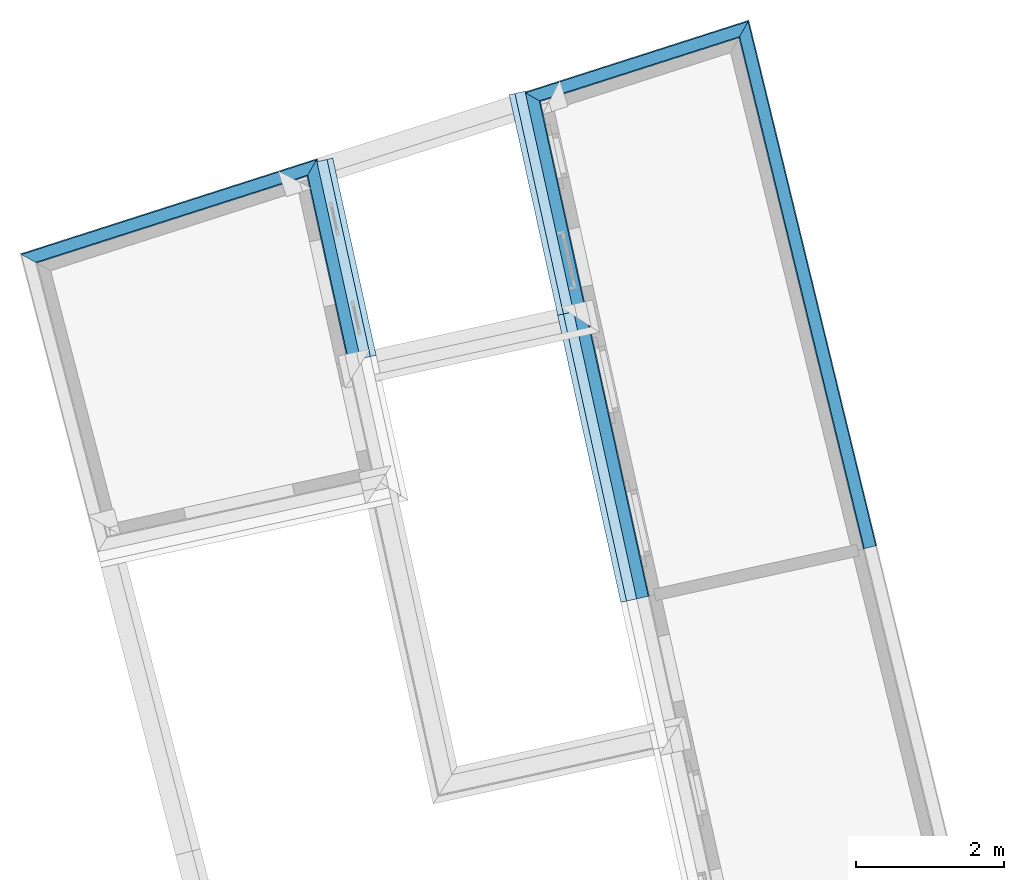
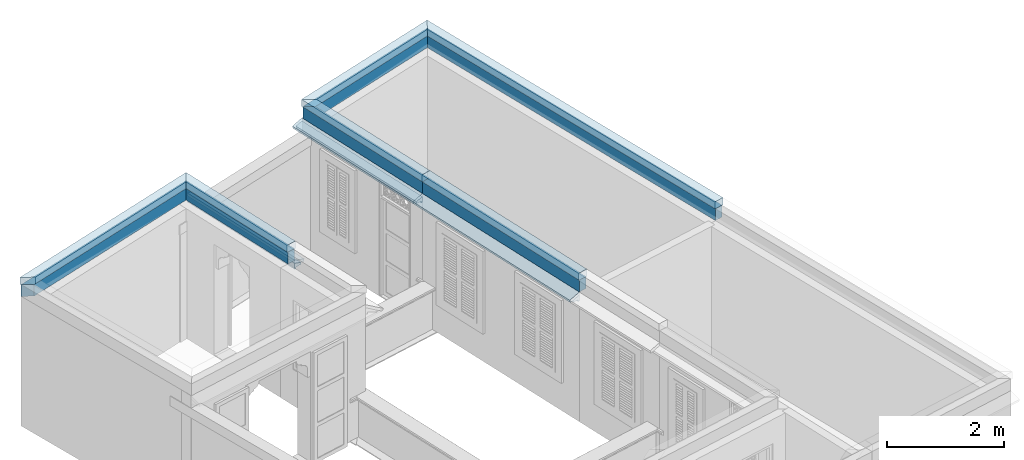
# One storey, part 16 of 17: 18 roofs.
"""IFC4 building model written with IfcOpenShell, lengths in metres."""

from ifc_helpers import new_model, si_unit, frame, origin_with_axes, place, context, subcontext, project, spatial, polyline, outline, extrude, clip, halfspace, material_profile, profile_set, profile_usage, type_object, element, save


model = new_model("IFC4")

# Units and contexts
model_context = context("Model", 3, world=origin_with_axes())
body_context = subcontext(model_context, "Body", "Model", "MODEL_VIEW")
ifc_project = project(units=[si_unit("PLANEANGLEUNIT", "RADIAN"), si_unit("MASSUNIT", "GRAM", prefix="KILO"), si_unit("FORCEUNIT", "NEWTON", prefix="KILO"), si_unit("LENGTHUNIT", "METRE"), si_unit("AREAUNIT", "SQUARE_METRE"), si_unit("VOLUMEUNIT", "CUBIC_METRE")], contexts=[model_context, model_context])

# Site, building, storey
site_placement = place(None, origin_with_axes())
site = spatial("IfcSite", under=ifc_project, at=site_placement, Name="Site plot-2", CompositionType="ELEMENT")
building_placement = place(None, origin_with_axes())
building = spatial("IfcBuilding", under=site, at=building_placement, Name="Building plot-2", CompositionType="ELEMENT")
storey_placement = place(None, frame((0.0, 0.0, 2.85), z_axis=(0.0, 0.0, 1.0), x_axis=(1.0, 0.0, 0.0)))
storey = spatial("IfcBuildingStorey", under=building, at=storey_placement, Name="plot-2 1", CompositionType="ELEMENT", Elevation=2.85)

# Roofs
ifc_material_profile_1 = material_profile(None, outline(polyline([(0.25, 0.0), (0.25, 0.245), (0.09, 0.245), (0.09, 0.0), (0.25, 0.0)])))
ifc_profile_set_1 = profile_set([ifc_material_profile_1])
ifc_profile_usage_1 = profile_usage(ifc_profile_set_1)
roof_type_1 = type_object("IfcRoofType", Name="roofline_0", PredefinedType="FREEFORM", material=ifc_profile_set_1)
roof_1_placement = place(storey_placement, frame((11.3700141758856, 15.9719655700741, 2.7), z_axis=(0.214808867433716, -0.976656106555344, 0.0), x_axis=(0.976656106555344, 0.214808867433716, 0.0)))
element("IfcRoof", 1, at=roof_1_placement, inside=storey, type_object=roof_type_1, material=ifc_profile_usage_1, Name="roofline_0", context=body_context, shape_type="Clipping", body=[
    clip(clip(extrude(outline(polyline([(0.25, 0.0), (0.25, 0.245), (0.09, 0.245), (0.09, 0.0), (0.25, 0.0)])), origin_with_axes(), (0.0, 0.0, 1.0), 4.47432531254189), halfspace(frame((0.0, 0.0, 3.47432531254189), z_axis=(-4.26937964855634e-14, 0.0, -1.0), x_axis=(0.0, 1.0, 0.0)), True)), halfspace(frame((0.0, 0.0, 1.0), z_axis=(-0.739498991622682, 0.0, -0.673157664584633), x_axis=(0.0, 1.0, 0.0)), False)),
])
ifc_profile_usage_2 = profile_usage(ifc_profile_set_1)
roof_2_placement = place(storey_placement, frame((7.1337289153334, 13.5677769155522, 2.7), z_axis=(0.952226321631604, 0.30539324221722, 0.0), x_axis=(-0.30539324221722, 0.952226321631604, 0.0)))
element("IfcRoof", 2, at=roof_2_placement, inside=storey, type_object=roof_type_1, material=ifc_profile_usage_2, Name="roofline_0", context=body_context, shape_type="Clipping", body=[
    clip(clip(extrude(outline(polyline([(0.25, 0.0), (0.25, 0.245), (0.09, 0.245), (0.09, 0.0), (0.25, 0.0)])), origin_with_axes(), (0.0, 0.0, 1.0), 5.67440778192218), halfspace(frame((0.0, 0.0, 4.67440778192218), z_axis=(0.739498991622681, 0.0, -0.673157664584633), x_axis=(0.0, 1.0, 0.0)), True)), halfspace(frame((0.0, 0.0, 1.0), z_axis=(-0.686622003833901, 0.0, -0.727014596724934), x_axis=(0.0, 1.0, 0.0)), False)),
])
ifc_material_profile_2 = material_profile(None, outline(polyline([(0.265, 0.245), (0.265, 0.395), (0.075, 0.395), (0.075, 0.245), (0.265, 0.245)])))
ifc_profile_set_2 = profile_set([ifc_material_profile_2])
ifc_profile_usage_3 = profile_usage(ifc_profile_set_2)
roof_type_2 = type_object("IfcRoofType", Name="roofline_1", PredefinedType="FREEFORM", material=ifc_profile_set_2)
roof_3_placement = place(storey_placement, frame((11.3700141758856, 15.9719655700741, 2.7), z_axis=(0.214808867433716, -0.976656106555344, 0.0), x_axis=(0.976656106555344, 0.214808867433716, 0.0)))
element("IfcRoof", 3, at=roof_3_placement, inside=storey, type_object=roof_type_2, material=ifc_profile_usage_3, Name="roofline_1", context=body_context, shape_type="Clipping", body=[
    clip(clip(extrude(outline(polyline([(0.265, 0.245), (0.265, 0.395), (0.075, 0.395), (0.075, 0.245), (0.265, 0.245)])), origin_with_axes(), (0.0, 0.0, 1.0), 4.47432531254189), halfspace(frame((0.0, 0.0, 3.47432531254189), z_axis=(-4.26937964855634e-14, 0.0, -1.0), x_axis=(0.0, 1.0, 0.0)), True)), halfspace(frame((0.0, 0.0, 1.0), z_axis=(-0.739498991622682, 0.0, -0.673157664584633), x_axis=(0.0, 1.0, 0.0)), False)),
])
ifc_profile_usage_4 = profile_usage(ifc_profile_set_2)
roof_4_placement = place(storey_placement, frame((7.1337289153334, 13.5677769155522, 2.7), z_axis=(0.952226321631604, 0.30539324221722, 0.0), x_axis=(-0.30539324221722, 0.952226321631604, 0.0)))
element("IfcRoof", 4, at=roof_4_placement, inside=storey, type_object=roof_type_2, material=ifc_profile_usage_4, Name="roofline_1", context=body_context, shape_type="Clipping", body=[
    clip(clip(extrude(outline(polyline([(0.265, 0.245), (0.265, 0.395), (0.075, 0.395), (0.075, 0.245), (0.265, 0.245)])), origin_with_axes(), (0.0, 0.0, 1.0), 5.67440778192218), halfspace(frame((0.0, 0.0, 4.67440778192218), z_axis=(0.739498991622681, 0.0, -0.673157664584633), x_axis=(0.0, 1.0, 0.0)), True)), halfspace(frame((0.0, 0.0, 1.0), z_axis=(-0.686622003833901, 0.0, -0.727014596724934), x_axis=(0.0, 1.0, 0.0)), False)),
])
ifc_material_profile_3 = material_profile(None, outline(polyline([(0.25, 0.0), (0.25, 0.245), (0.09, 0.245), (0.09, 0.0), (0.25, 0.0)])))
ifc_profile_set_3 = profile_set([ifc_material_profile_3])
ifc_profile_usage_5 = profile_usage(ifc_profile_set_3)
roof_type_3 = type_object("IfcRoofType", Name="roofline_0", PredefinedType="FREEFORM", material=ifc_profile_set_3)
roof_5_placement = place(storey_placement, frame((17.181524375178, 17.8377443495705, 2.7), z_axis=(0.236608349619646, -0.971605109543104, 0.0), x_axis=(0.971605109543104, 0.236608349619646, 0.0)))
element("IfcRoof", 5, at=roof_5_placement, inside=storey, type_object=roof_type_3, material=ifc_profile_usage_5, Name="roofline_0", context=body_context, shape_type="Clipping", body=[
    clip(clip(extrude(outline(polyline([(0.25, 0.0), (0.25, 0.245), (0.09, 0.245), (0.09, 0.0), (0.25, 0.0)])), origin_with_axes(), (0.0, 0.0, 1.0), 9.0186707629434), halfspace(frame((0.0, 0.0, 8.0186707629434), z_axis=(5.48988278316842e-15, 0.0, -1.0), x_axis=(0.0, 1.0, 0.0)), True)), halfspace(frame((0.0, 0.0, 1.0), z_axis=(-0.731921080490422, 0.0, -0.681389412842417), x_axis=(0.0, 1.0, 0.0)), False)),
])
ifc_profile_usage_6 = profile_usage(ifc_profile_set_3)
roof_6_placement = place(storey_placement, frame((13.9312683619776, 15.7478496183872, 2.7), z_axis=(0.952226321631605, 0.305393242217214, 0.0), x_axis=(-0.305393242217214, 0.952226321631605, 0.0)))
element("IfcRoof", 6, at=roof_6_placement, inside=storey, type_object=roof_type_3, material=ifc_profile_usage_6, Name="roofline_0", context=body_context, shape_type="Clipping", body=[
    clip(clip(extrude(outline(polyline([(0.25, 0.0), (0.25, 0.245), (0.09, 0.245), (0.09, 0.0), (0.25, 0.0)])), origin_with_axes(), (0.0, 0.0, 1.0), 4.66180211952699), halfspace(frame((0.0, 0.0, 3.66180211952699), z_axis=(0.731921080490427, 0.0, -0.681389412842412), x_axis=(0.0, 1.0, 0.0)), True)), halfspace(frame((0.0, 0.0, 1.0), z_axis=(-0.67315766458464, 0.0, -0.739498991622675), x_axis=(0.0, 1.0, 0.0)), False)),
])
ifc_profile_usage_7 = profile_usage(ifc_profile_set_3)
roof_7_placement = place(storey_placement, frame((15.6995489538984, 12.3429473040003, 2.7), z_axis=(-0.214808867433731, 0.976656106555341, 0.0), x_axis=(-0.976656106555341, -0.214808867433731, 0.0)))
element("IfcRoof", 7, at=roof_7_placement, inside=storey, type_object=roof_type_3, material=ifc_profile_usage_7, Name="roofline_0", context=body_context, shape_type="Clipping", body=[
    clip(clip(extrude(outline(polyline([(0.25, 0.0), (0.25, 0.245), (0.09, 0.245), (0.09, 0.0), (0.25, 0.0)])), origin_with_axes(), (0.0, 0.0, 1.0), 4.79897850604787), halfspace(frame((0.0, 0.0, 3.79897850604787), z_axis=(0.673157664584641, 0.0, -0.739498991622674), x_axis=(0.0, 1.0, 0.0)), True)), halfspace(frame((0.0, 0.0, 1.0), z_axis=(-2.83276944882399e-16, 0.0, -1.0), x_axis=(0.0, 1.0, 0.0)), False)),
])
ifc_profile_usage_8 = profile_usage(ifc_profile_set_3)
roof_8_placement = place(storey_placement, frame((16.5520131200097, 8.46710947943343, 2.7), z_axis=(-0.214808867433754, 0.976656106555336, 0.0), x_axis=(-0.976656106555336, -0.214808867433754, 0.0)))
element("IfcRoof", 8, at=roof_8_placement, inside=storey, type_object=roof_type_3, material=ifc_profile_usage_8, Name="roofline_0", context=body_context, shape_type="Clipping", body=[
    clip(clip(extrude(outline(polyline([(0.25, 0.0), (0.25, 0.245), (0.09, 0.245), (0.09, 0.0), (0.25, 0.0)])), origin_with_axes(), (0.0, 0.0, 1.0), 5.96847754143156), halfspace(frame((0.0, 0.0, 4.96847754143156), z_axis=(2.23652727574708e-14, 0.0, -1.0), x_axis=(0.0, 1.0, 0.0)), True)), halfspace(frame((0.0, 0.0, 1.0), z_axis=(1.60812264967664e-16, 0.0, -1.0), x_axis=(0.0, 1.0, 0.0)), False)),
])
ifc_material_profile_4 = material_profile(None, outline(polyline([(0.265, 0.245), (0.265, 0.395), (0.075, 0.395), (0.075, 0.245), (0.265, 0.245)])))
ifc_profile_set_4 = profile_set([ifc_material_profile_4])
ifc_profile_usage_9 = profile_usage(ifc_profile_set_4)
roof_type_4 = type_object("IfcRoofType", Name="roofline_1", PredefinedType="FREEFORM", material=ifc_profile_set_4)
roof_9_placement = place(storey_placement, frame((17.181524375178, 17.8377443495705, 2.7), z_axis=(0.236608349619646, -0.971605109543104, 0.0), x_axis=(0.971605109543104, 0.236608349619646, 0.0)))
element("IfcRoof", 9, at=roof_9_placement, inside=storey, type_object=roof_type_4, material=ifc_profile_usage_9, Name="roofline_1", context=body_context, shape_type="Clipping", body=[
    clip(clip(extrude(outline(polyline([(0.265, 0.245), (0.265, 0.395), (0.075, 0.395), (0.075, 0.245), (0.265, 0.245)])), origin_with_axes(), (0.0, 0.0, 1.0), 9.0186707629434), halfspace(frame((0.0, 0.0, 8.0186707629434), z_axis=(5.48988278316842e-15, 0.0, -1.0), x_axis=(0.0, 1.0, 0.0)), True)), halfspace(frame((0.0, 0.0, 1.0), z_axis=(-0.731921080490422, 0.0, -0.681389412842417), x_axis=(0.0, 1.0, 0.0)), False)),
])
ifc_profile_usage_10 = profile_usage(ifc_profile_set_4)
roof_10_placement = place(storey_placement, frame((13.9312683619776, 15.7478496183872, 2.7), z_axis=(0.952226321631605, 0.305393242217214, 0.0), x_axis=(-0.305393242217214, 0.952226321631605, 0.0)))
element("IfcRoof", 10, at=roof_10_placement, inside=storey, type_object=roof_type_4, material=ifc_profile_usage_10, Name="roofline_1", context=body_context, shape_type="Clipping", body=[
    clip(clip(extrude(outline(polyline([(0.265, 0.245), (0.265, 0.395), (0.075, 0.395), (0.075, 0.245), (0.265, 0.245)])), origin_with_axes(), (0.0, 0.0, 1.0), 4.66180211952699), halfspace(frame((0.0, 0.0, 3.66180211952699), z_axis=(0.731921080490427, 0.0, -0.681389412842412), x_axis=(0.0, 1.0, 0.0)), True)), halfspace(frame((0.0, 0.0, 1.0), z_axis=(-0.67315766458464, 0.0, -0.739498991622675), x_axis=(0.0, 1.0, 0.0)), False)),
])
ifc_profile_usage_11 = profile_usage(ifc_profile_set_4)
roof_11_placement = place(storey_placement, frame((15.6995489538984, 12.3429473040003, 2.7), z_axis=(-0.214808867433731, 0.976656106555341, 0.0), x_axis=(-0.976656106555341, -0.214808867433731, 0.0)))
element("IfcRoof", 11, at=roof_11_placement, inside=storey, type_object=roof_type_4, material=ifc_profile_usage_11, Name="roofline_1", context=body_context, shape_type="Clipping", body=[
    clip(clip(extrude(outline(polyline([(0.265, 0.245), (0.265, 0.395), (0.075, 0.395), (0.075, 0.245), (0.265, 0.245)])), origin_with_axes(), (0.0, 0.0, 1.0), 4.79897850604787), halfspace(frame((0.0, 0.0, 3.79897850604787), z_axis=(0.673157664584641, 0.0, -0.739498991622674), x_axis=(0.0, 1.0, 0.0)), True)), halfspace(frame((0.0, 0.0, 1.0), z_axis=(-2.83276944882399e-16, 0.0, -1.0), x_axis=(0.0, 1.0, 0.0)), False)),
])
ifc_profile_usage_12 = profile_usage(ifc_profile_set_4)
roof_12_placement = place(storey_placement, frame((16.5520131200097, 8.46710947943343, 2.7), z_axis=(-0.214808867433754, 0.976656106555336, 0.0), x_axis=(-0.976656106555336, -0.214808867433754, 0.0)))
element("IfcRoof", 12, at=roof_12_placement, inside=storey, type_object=roof_type_4, material=ifc_profile_usage_12, Name="roofline_1", context=body_context, shape_type="Clipping", body=[
    clip(clip(extrude(outline(polyline([(0.265, 0.245), (0.265, 0.395), (0.075, 0.395), (0.075, 0.245), (0.265, 0.245)])), origin_with_axes(), (0.0, 0.0, 1.0), 5.96847754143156), halfspace(frame((0.0, 0.0, 4.96847754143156), z_axis=(2.23652727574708e-14, 0.0, -1.0), x_axis=(0.0, 1.0, 0.0)), True)), halfspace(frame((0.0, 0.0, 1.0), z_axis=(1.60812264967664e-16, 0.0, -1.0), x_axis=(0.0, 1.0, 0.0)), False)),
])
ifc_material_profile_5 = material_profile(None, outline(polyline([(0.25, -0.19), (0.275, -0.19), (0.275, -0.15), (0.39, -0.15), (0.39, -0.107509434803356), (0.25, -0.0629639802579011), (0.25, -0.19)])))
ifc_profile_set_5 = profile_set([ifc_material_profile_5])
ifc_profile_usage_13 = profile_usage(ifc_profile_set_5)
roof_type_5 = type_object("IfcRoofType", Name="eaves_0", PredefinedType="FREEFORM", material=ifc_profile_set_5)
roof_13_placement = place(storey_placement, frame((11.3163119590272, 16.216129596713, 2.7), z_axis=(0.214808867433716, -0.976656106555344, 0.0), x_axis=(0.976656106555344, 0.214808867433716, 0.0)))
element("IfcRoof", 13, at=roof_13_placement, inside=storey, type_object=roof_type_5, material=ifc_profile_usage_13, Name="eaves_0", context=body_context, shape_type="Clipping", body=[
    clip(clip(extrude(outline(polyline([(0.25, -0.19), (0.275, -0.19), (0.275, -0.15), (0.39, -0.15), (0.39, -0.107509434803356), (0.25, -0.0629639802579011), (0.25, -0.19)])), origin_with_axes(), (0.0, 0.0, 1.0), 4.72432531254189), halfspace(frame((0.0, 0.0, 3.72432531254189), z_axis=(-4.26937964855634e-14, 0.0, -1.0), x_axis=(0.0, 1.0, 0.0)), True)), halfspace(frame((0.0, 0.0, 1.0), z_axis=(8.26946079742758e-16, 0.0, -1.0), x_axis=(0.0, 1.0, 0.0)), False)),
])
ifc_material_profile_6 = material_profile(None, outline(polyline([(0.25, -0.0629639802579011), (0.451807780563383, -0.127175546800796), (0.47, -0.07), (0.25, 0.0), (0.25, -0.0629639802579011)])))
ifc_profile_set_6 = profile_set([ifc_material_profile_6])
ifc_profile_usage_14 = profile_usage(ifc_profile_set_6)
roof_type_6 = type_object("IfcRoofType", Name="eaves_1", PredefinedType="FREEFORM", material=ifc_profile_set_6)
roof_14_placement = place(storey_placement, frame((11.3163119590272, 16.216129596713, 2.7), z_axis=(0.214808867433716, -0.976656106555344, 0.0), x_axis=(0.976656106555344, 0.214808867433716, 0.0)))
element("IfcRoof", 14, at=roof_14_placement, inside=storey, type_object=roof_type_6, material=ifc_profile_usage_14, Name="eaves_1", context=body_context, shape_type="Clipping", body=[
    clip(clip(extrude(outline(polyline([(0.25, -0.0629639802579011), (0.451807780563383, -0.127175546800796), (0.47, -0.07), (0.25, 0.0), (0.25, -0.0629639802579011)])), origin_with_axes(), (0.0, 0.0, 1.0), 4.72432531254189), halfspace(frame((0.0, 0.0, 3.72432531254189), z_axis=(-4.26937964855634e-14, 0.0, -1.0), x_axis=(0.0, 1.0, 0.0)), True)), halfspace(frame((0.0, 0.0, 1.0), z_axis=(8.26946079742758e-16, 0.0, -1.0), x_axis=(0.0, 1.0, 0.0)), False)),
])
ifc_material_profile_7 = material_profile(None, outline(polyline([(0.25, -0.19), (0.275, -0.19), (0.275, -0.15), (0.39, -0.15), (0.39, -0.107509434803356), (0.25, -0.0629639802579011), (0.25, -0.19)])))
ifc_profile_set_7 = profile_set([ifc_material_profile_7])
ifc_profile_usage_15 = profile_usage(ifc_profile_set_7)
roof_type_7 = type_object("IfcRoofType", Name="eaves_0", PredefinedType="FREEFORM", material=ifc_profile_set_7)
roof_15_placement = place(storey_placement, frame((15.6995489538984, 12.3429473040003, 2.7), z_axis=(-0.214808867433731, 0.976656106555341, 0.0), x_axis=(-0.976656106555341, -0.214808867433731, 0.0)))
element("IfcRoof", 15, at=roof_15_placement, inside=storey, type_object=roof_type_7, material=ifc_profile_usage_15, Name="eaves_0", context=body_context, shape_type="Clipping", body=[
    clip(clip(extrude(outline(polyline([(0.25, -0.19), (0.275, -0.19), (0.275, -0.15), (0.39, -0.15), (0.39, -0.107509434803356), (0.25, -0.0629639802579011), (0.25, -0.19)])), origin_with_axes(), (0.0, 0.0, 1.0), 5.04897850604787), halfspace(frame((0.0, 0.0, 4.04897850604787), z_axis=(-2.83276944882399e-16, 0.0, -1.0), x_axis=(0.0, 1.0, 0.0)), True)), halfspace(frame((0.0, 0.0, 1.0), z_axis=(-2.83276944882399e-16, 0.0, -1.0), x_axis=(0.0, 1.0, 0.0)), False)),
])
ifc_profile_usage_16 = profile_usage(ifc_profile_set_7)
roof_16_placement = place(storey_placement, frame((16.5520131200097, 8.46710947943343, 2.7), z_axis=(-0.214808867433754, 0.976656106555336, 0.0), x_axis=(-0.976656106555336, -0.214808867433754, 0.0)))
element("IfcRoof", 16, at=roof_16_placement, inside=storey, type_object=roof_type_7, material=ifc_profile_usage_16, Name="eaves_0", context=body_context, shape_type="Clipping", body=[
    clip(clip(extrude(outline(polyline([(0.25, -0.19), (0.275, -0.19), (0.275, -0.15), (0.39, -0.15), (0.39, -0.107509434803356), (0.25, -0.0629639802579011), (0.25, -0.19)])), origin_with_axes(), (0.0, 0.0, 1.0), 5.96847754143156), halfspace(frame((0.0, 0.0, 4.96847754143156), z_axis=(2.23652727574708e-14, 0.0, -1.0), x_axis=(0.0, 1.0, 0.0)), True)), halfspace(frame((0.0, 0.0, 1.0), z_axis=(1.60812264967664e-16, 0.0, -1.0), x_axis=(0.0, 1.0, 0.0)), False)),
])
ifc_material_profile_8 = material_profile(None, outline(polyline([(0.25, -0.0629639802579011), (0.451807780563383, -0.127175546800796), (0.47, -0.07), (0.25, 0.0), (0.25, -0.0629639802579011)])))
ifc_profile_set_8 = profile_set([ifc_material_profile_8])
ifc_profile_usage_17 = profile_usage(ifc_profile_set_8)
roof_type_8 = type_object("IfcRoofType", Name="eaves_1", PredefinedType="FREEFORM", material=ifc_profile_set_8)
roof_17_placement = place(storey_placement, frame((15.6995489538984, 12.3429473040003, 2.7), z_axis=(-0.214808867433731, 0.976656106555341, 0.0), x_axis=(-0.976656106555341, -0.214808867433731, 0.0)))
element("IfcRoof", 17, at=roof_17_placement, inside=storey, type_object=roof_type_8, material=ifc_profile_usage_17, Name="eaves_1", context=body_context, shape_type="Clipping", body=[
    clip(clip(extrude(outline(polyline([(0.25, -0.0629639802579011), (0.451807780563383, -0.127175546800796), (0.47, -0.07), (0.25, 0.0), (0.25, -0.0629639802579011)])), origin_with_axes(), (0.0, 0.0, 1.0), 5.04897850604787), halfspace(frame((0.0, 0.0, 4.04897850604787), z_axis=(-2.83276944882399e-16, 0.0, -1.0), x_axis=(0.0, 1.0, 0.0)), True)), halfspace(frame((0.0, 0.0, 1.0), z_axis=(-2.83276944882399e-16, 0.0, -1.0), x_axis=(0.0, 1.0, 0.0)), False)),
])
ifc_profile_usage_18 = profile_usage(ifc_profile_set_8)
roof_18_placement = place(storey_placement, frame((16.5520131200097, 8.46710947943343, 2.7), z_axis=(-0.214808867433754, 0.976656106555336, 0.0), x_axis=(-0.976656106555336, -0.214808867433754, 0.0)))
element("IfcRoof", 18, at=roof_18_placement, inside=storey, type_object=roof_type_8, material=ifc_profile_usage_18, Name="eaves_1", context=body_context, shape_type="Clipping", body=[
    clip(clip(extrude(outline(polyline([(0.25, -0.0629639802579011), (0.451807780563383, -0.127175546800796), (0.47, -0.07), (0.25, 0.0), (0.25, -0.0629639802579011)])), origin_with_axes(), (0.0, 0.0, 1.0), 5.96847754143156), halfspace(frame((0.0, 0.0, 4.96847754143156), z_axis=(2.23652727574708e-14, 0.0, -1.0), x_axis=(0.0, 1.0, 0.0)), True)), halfspace(frame((0.0, 0.0, 1.0), z_axis=(1.60812264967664e-16, 0.0, -1.0), x_axis=(0.0, 1.0, 0.0)), False)),
])

save(model, "model.ifc")
